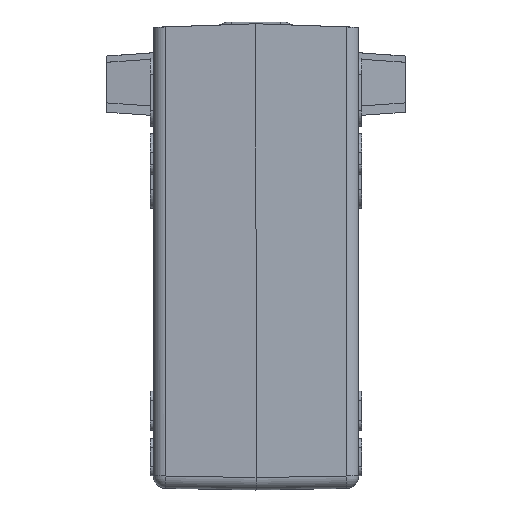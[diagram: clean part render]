
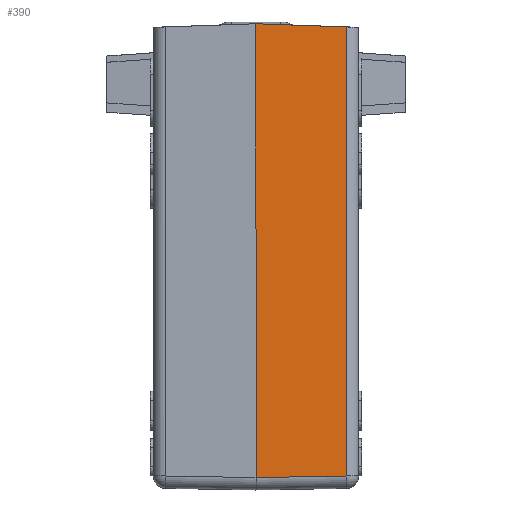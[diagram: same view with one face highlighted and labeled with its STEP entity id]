
A CAD part, front view. The second image highlights one B-rep face of the part: STEP entity #390.
In plain terms, the highlighted planar face has unit normal (0.018, -1, 0).
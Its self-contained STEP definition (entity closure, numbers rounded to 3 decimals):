
#390=ADVANCED_FACE('',(#742),#608,.T.);
#608=PLANE('',#4117);
#742=FACE_OUTER_BOUND('',#958,.T.);
#958=EDGE_LOOP('',(#1192,#1193,#1194,#1195));
#1192=ORIENTED_EDGE('',*,*,#2745,.F.);
#1193=ORIENTED_EDGE('',*,*,#2746,.T.);
#1194=ORIENTED_EDGE('',*,*,#2747,.F.);
#1195=ORIENTED_EDGE('',*,*,#2748,.T.);
#2362=VERTEX_POINT('',#5564);
#2363=VERTEX_POINT('',#5565);
#2364=VERTEX_POINT('',#5567);
#2365=VERTEX_POINT('',#5569);
#2745=EDGE_CURVE('',#2362,#2363,#3330,.T.);
#2746=EDGE_CURVE('',#2362,#2364,#3331,.T.);
#2747=EDGE_CURVE('',#2365,#2364,#3332,.T.);
#2748=EDGE_CURVE('',#2365,#2363,#3333,.T.);
#3330=LINE('',#5563,#3723);
#3331=LINE('',#5566,#3724);
#3332=LINE('',#5568,#3725);
#3333=LINE('',#5570,#3726);
#3723=VECTOR('',#4469,1.);
#3724=VECTOR('',#4470,1.);
#3725=VECTOR('',#4471,1.);
#3726=VECTOR('',#4472,1.);
#4117=AXIS2_PLACEMENT_3D('',#5571,#4473,#4474);
#4469=DIRECTION('',(0.,0.,-1.));
#4470=DIRECTION('',(-0.999,-0.017,0.035));
#4471=DIRECTION('',(0.,0.,1.));
#4472=DIRECTION('',(1.,0.017,0.017));
#4473=DIRECTION('',(0.017,-1.,0.));
#4474=DIRECTION('',(-1.,-0.017,0.));
#5563=CARTESIAN_POINT('',(-2.661,-66.981,-3.865));
#5564=CARTESIAN_POINT('',(-2.661,-66.981,37.613));
#5565=CARTESIAN_POINT('',(-2.661,-66.981,-34.64));
#5566=CARTESIAN_POINT('',(0.596,-66.924,37.5));
#5567=CARTESIAN_POINT('',(-17.195,-67.234,38.121));
#5568=CARTESIAN_POINT('',(-17.195,-67.234,0.485));
#5569=CARTESIAN_POINT('',(-17.195,-67.234,-34.894));
#5570=CARTESIAN_POINT('',(-0.083,-66.936,-34.595));
#5571=CARTESIAN_POINT('',(-0.696,-66.946,0.485));
